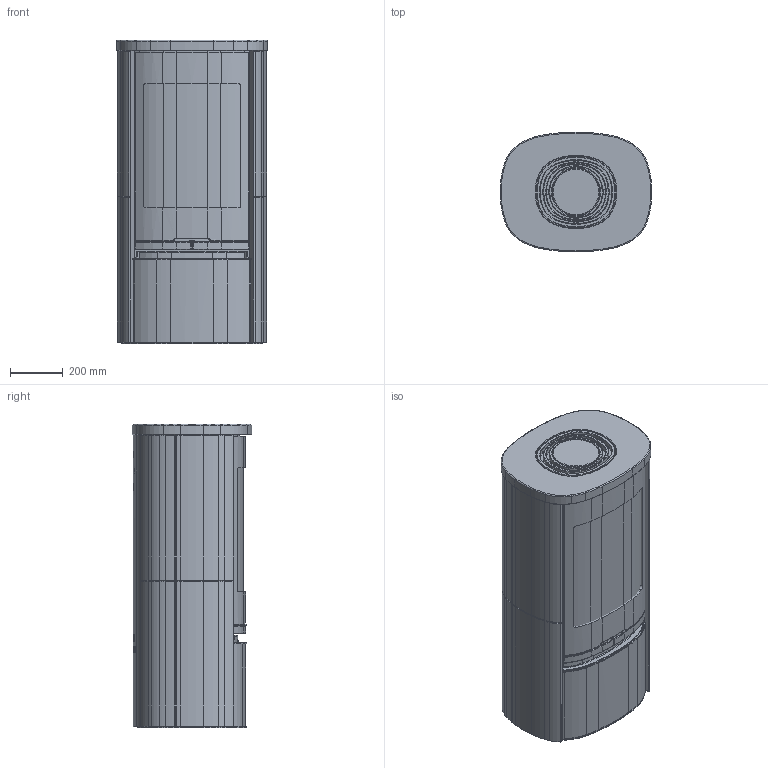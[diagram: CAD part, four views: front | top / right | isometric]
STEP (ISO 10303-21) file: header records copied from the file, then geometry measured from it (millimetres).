
FILE_DESCRIPTION(/* description */ ('Unknown'),/* implementation_level */ '2;1');
FILE_NAME(/* name */ 'DSN1111530_0_asm',/* time_stamp */ '2025-02-27T11:52:04+01:00',/* author */ ('Unknown'),/* organization */ ('NIBE AB'),/* preprocessor_version */ 'ST-DEVELOPER v18.102',/* originating_system */ 'Solid Edge',/* authorisation */ 'Unknown');
FILE_SCHEMA (('CONFIG_CONTROL_DESIGN'));
Products named in the file (11): DSN1111530; DSN1110949; DSN1110923; DSN1110955; DSN1111155; DSN1111118; DSN1111115; DSN1111098; DSN1111529; DSN1110998; DSN1110968
Assembly tree (10 placements, depth 2):
  DSN1111530
    DSN1110949
    DSN1110923
    DSN1110955
    DSN1111155
    DSN1111118
    DSN1111115
    DSN1111098
    DSN1111529
    DSN1110998
    DSN1110968
Bounding box: 571.53 x 451.02 x 1145 mm (x, y, z)
Volume: 197774915.7 mm3; surface area: 9704433.6 mm2
Topology: 10 solids, 10 shells, 1684 faces, 4267 edges, 2638 vertices
Faces by surface type: plane 436, cylinder 429, bspline 349, cone 246, torus 210, sphere 14
Full cylindrical faces by diameter (mm): 5 x5, 176.4 x1, 180.592 x1, 213.2 x1
Entity records: 82284 total; most frequent: CARTESIAN_POINT 38873, ORIENTED_EDGE 8446, DIRECTION 7701, EDGE_CURVE 4223, AXIS2_PLACEMENT_3D 3068, VERTEX_POINT 2632, FACE_BOUND 1777, EDGE_LOOP 1776
